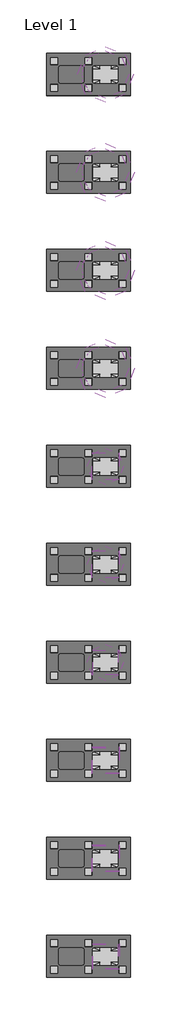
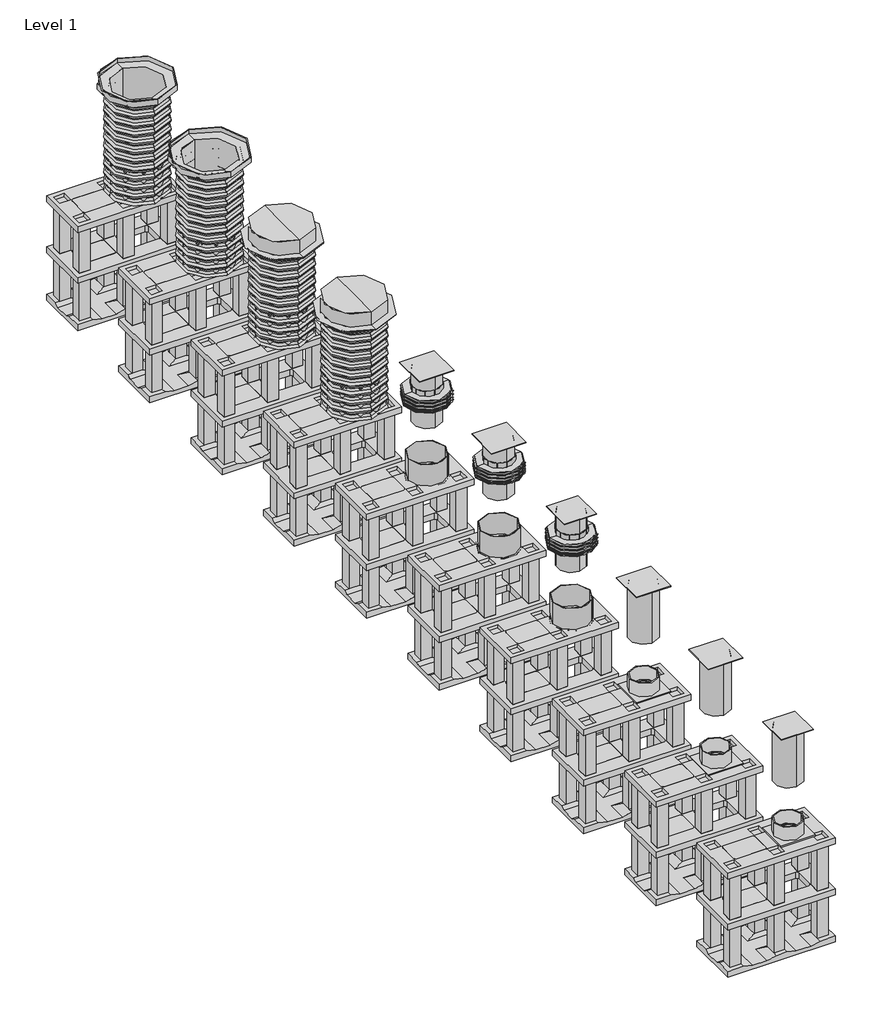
# One storey, incomplete: 37 unitary equipment elements, 20 pipe fittings.
"""IFC4 building model written with IfcOpenShell, lengths in millimetres."""

from ifc_helpers import new_model, si_unit, origin, place, context, project, spatial, transform, mapped, element, save
from components import pipe_fitting_ed6f3102, pipe_fitting_7e1303c6, pipe_fitting_19354b99, pipe_fitting_579b926a, pipe_fitting_80fb7be2, pipe_fitting_064eac1b, pipe_fitting_fba1ddc1, pipe_fitting_81697eeb, pipe_fitting_82165052, pipe_fitting_2391b2dd, sx315_telescopic_cover_with_d400_grating_073f188a, sx315_telescopic_cover_with_air_b125_2c5652aa, std_29941be0, unitary_equipment_425_46f02a0c, unitary_equipment_600_9c861f79, closed_bottom_plate_7d425a97, std_7f29cd48

model = new_model("IFC4")

# Units and contexts
model_context = context("Model", 3, world=origin())
ifc_project = project(units=[si_unit("LENGTHUNIT", "METRE", prefix="MILLI")], contexts=[model_context])

# Site, building, storey
site = spatial("IfcSite", under=ifc_project)
building = spatial("IfcBuilding", under=site)
storey = spatial("IfcBuildingStorey", under=building, Name="Level 1", Elevation=0.0)

# Pipe fittings
placement = place(None, origin())
pipe_fitting_shape = pipe_fitting_ed6f3102(model_context)
element("IfcPipeFitting", 1, ObjectType="Z_PIF_UN_Q-Bic_Plus_Telescopic_Adapter_Wavin_(nested) : Tegra600 Telescop.Adapter A/B", at=placement, inside=storey, context=model_context, shape_type="MappedRepresentation", body=[
    mapped(pipe_fitting_shape, transform((13331.051096, 7060.7779398, 2500.0), x_axis=(0.0, -1.0, 0.0), y_axis=(1.0, 0.0, 0.0), z_axis=(0.0, 0.0, 1.0))),
])
pipe_fitting_2_shape = pipe_fitting_7e1303c6(model_context)
element("IfcPipeFitting", 2, ObjectType="Z_PIF_UN_Q-Bic_Plus_Telescopic_Adapter_Wavin_(nested) : Tegra600 Telescop.Adapter D", at=placement, inside=storey, context=model_context, shape_type="MappedRepresentation", body=[
    mapped(pipe_fitting_2_shape, transform((13331.051096, 8460.7779398, 2500.0), x_axis=(0.0, -1.0, 0.0), y_axis=(1.0, 0.0, 0.0), z_axis=(0.0, 0.0, 1.0))),
])
pipe_fitting_3_shape = pipe_fitting_19354b99(model_context)
element("IfcPipeFitting", 3, ObjectType="Z_PIF_UN_Q-Bic_Plus_Manschette_Wavin_(nested) : 425/315 PP", at=placement, inside=storey, context=model_context, shape_type="MappedRepresentation", body=[
    mapped(pipe_fitting_3_shape, transform((13331.051096, 60.7779398, 2125.0), x_axis=(1.0, 0.0, 0.0), y_axis=(0.0, 0.0, 1.0), z_axis=(0.0, -1.0, 0.0))),
])
element("IfcPipeFitting", 4, ObjectType="Z_PIF_UN_Q-Bic_Plus_Manschette_Wavin_(nested) : 425/315 PP", at=placement, inside=storey, context=model_context, shape_type="MappedRepresentation", body=[
    mapped(pipe_fitting_3_shape, transform((13331.051096, 1460.7779398, 2125.0), x_axis=(1.0, 0.0, 0.0), y_axis=(0.0, 0.0, 1.0), z_axis=(0.0, -1.0, 0.0))),
])
element("IfcPipeFitting", 5, ObjectType="Z_PIF_UN_Q-Bic_Plus_Manschette_Wavin_(nested) : 425/315 PP", at=placement, inside=storey, context=model_context, shape_type="MappedRepresentation", body=[
    mapped(pipe_fitting_3_shape, transform((13331.051096, 2860.7779398, 2125.0), x_axis=(1.0, 0.0, 0.0), y_axis=(0.0, 0.0, 1.0), z_axis=(0.0, -1.0, 0.0))),
])
pipe_fitting_4_shape = pipe_fitting_579b926a(model_context)
element("IfcPipeFitting", 6, ObjectType="Z_PIF_UN_Q-Bic_Plus_Cover_Iron_Wavin_(nested) : Q-Bic Plus Cover - iron", at=placement, inside=storey, context=model_context, shape_type="MappedRepresentation", body=[
    mapped(pipe_fitting_4_shape, transform((13331.051096, 5660.7779398, 2500.0), x_axis=(0.0, -1.0, 0.0), y_axis=(1.0, 0.0, 0.0), z_axis=(0.0, 0.0, 1.0))),
])
pipe_fitting_5_shape = pipe_fitting_80fb7be2(model_context)
pipe_fitting_6_shape = pipe_fitting_064eac1b(model_context)
pipe_fitting_7_shape = pipe_fitting_fba1ddc1(model_context)
element("IfcPipeFitting", 7, ObjectType="Z_PIF_UN_Q-Bic_Plus_Shaft_Pipe_Wavin_(nested) : PP, RAL8012, ø600mm", at=placement, inside=storey, context=model_context, shape_type="MappedRepresentation", body=[
    mapped(pipe_fitting_5_shape, transform((13331.051096, 8460.7779398, 1230.0), x_axis=(0.0, 0.0, 1.0), y_axis=(0.0, 1.0, 0.0), z_axis=(-1.0, 0.0, 0.0))),
    mapped(pipe_fitting_6_shape, transform((13331.051096, 8460.7779398, 1230.0), x_axis=(0.0, 0.0, 1.0), y_axis=(0.0, 1.0, 0.0), z_axis=(-1.0, 0.0, 0.0))),
    mapped(pipe_fitting_7_shape, transform((13331.051096, 8460.7779398, 1230.0), x_axis=(0.0, 0.0, 1.0), y_axis=(0.0, 1.0, 0.0), z_axis=(-1.0, 0.0, 0.0))),
])
pipe_fitting_8_shape = pipe_fitting_81697eeb(model_context)
pipe_fitting_9_shape = pipe_fitting_82165052(model_context)
element("IfcPipeFitting", 8, ObjectType="Z_PIF_UN_Q-Bic_Plus_Shaft_Pipe_Wavin_(nested) : PP, RAL8012, ø600mm", at=placement, inside=storey, context=model_context, shape_type="MappedRepresentation", body=[
    mapped(pipe_fitting_8_shape, transform((13331.051096, 4260.7779398, 1230.0), x_axis=(0.0, 0.0, 1.0), y_axis=(0.0, 1.0, 0.0), z_axis=(-1.0, 0.0, 0.0))),
    mapped(pipe_fitting_9_shape, transform((13331.051096, 4260.7779398, 1230.0), x_axis=(0.0, 0.0, 1.0), y_axis=(0.0, 1.0, 0.0), z_axis=(-1.0, 0.0, 0.0))),
])
element("IfcPipeFitting", 9, ObjectType="Z_PIF_UN_Q-Bic_Plus_Shaft_Pipe_Wavin_(nested) : PP, RAL8012, ø600mm", at=placement, inside=storey, context=model_context, shape_type="MappedRepresentation", body=[
    mapped(pipe_fitting_8_shape, transform((13331.051096, 5660.7779398, 1230.0), x_axis=(0.0, 0.0, 1.0), y_axis=(0.0, 1.0, 0.0), z_axis=(-1.0, 0.0, 0.0))),
    mapped(pipe_fitting_9_shape, transform((13331.051096, 5660.7779398, 1230.0), x_axis=(0.0, 0.0, 1.0), y_axis=(0.0, 1.0, 0.0), z_axis=(-1.0, 0.0, 0.0))),
])
pipe_fitting_10_shape = pipe_fitting_2391b2dd(model_context)
element("IfcPipeFitting", 10, ObjectType="Z_PIF_UN_Q-Bic_Plus_Shaft_Pipe_Wavin_(nested) : PP, RAL8012, ø600mm", at=placement, inside=storey, context=model_context, shape_type="MappedRepresentation", body=[
    mapped(pipe_fitting_5_shape, transform((13331.051096, 7060.7779398, 1230.0), x_axis=(0.0, 0.0, 1.0), y_axis=(0.0, 1.0, 0.0), z_axis=(-1.0, 0.0, 0.0))),
    mapped(pipe_fitting_6_shape, transform((13331.051096, 7060.7779398, 1230.0), x_axis=(0.0, 0.0, 1.0), y_axis=(0.0, 1.0, 0.0), z_axis=(-1.0, 0.0, 0.0))),
    mapped(pipe_fitting_10_shape, transform((13331.051096, 7060.7779398, 1230.0), x_axis=(0.0, 0.0, 1.0), y_axis=(0.0, 1.0, 0.0), z_axis=(-1.0, 0.0, 0.0))),
])
element("IfcPipeFitting", 11, ObjectType="Z_PIF_UN_Q-Bic_Plus_Cover_Iron_Wavin_(nested) : Q-Bic Plus Cover - iron", at=placement, inside=storey, context=model_context, shape_type="MappedRepresentation", body=[
    mapped(pipe_fitting_4_shape, transform((13331.051096, 4260.7779398, 2500.0), x_axis=(0.0, -1.0, 0.0), y_axis=(1.0, 0.0, 0.0), z_axis=(0.0, 0.0, 1.0))),
])
sx315_telescopic_cover_with_d400_grating_shape = sx315_telescopic_cover_with_d400_grating_073f188a(model_context)
element("IfcPipeFitting", 12, ObjectType="Z_PIF_UN_Q-Bic_Plus_Telescopic_Square_Cover_Wavin_(nested) : SX315 Telescopic cover with D400 Grating", at=placement, inside=storey, context=model_context, shape_type="MappedRepresentation", body=[
    mapped(sx315_telescopic_cover_with_d400_grating_shape, transform((13331.051096, -1339.2220602, 2500.0), x_axis=(0.0, -1.0, 0.0), y_axis=(1.0, 0.0, 0.0), z_axis=(0.0, 0.0, 1.0))),
])
element("IfcPipeFitting", 13, ObjectType="Z_PIF_UN_Q-Bic_Plus_Telescopic_Square_Cover_Wavin_(nested) : SX315 Telescopic cover with D400 Grating", at=placement, inside=storey, context=model_context, shape_type="MappedRepresentation", body=[
    mapped(sx315_telescopic_cover_with_d400_grating_shape, transform((13331.051096, 2860.7779398, 2500.0), x_axis=(0.0, -1.0, 0.0), y_axis=(1.0, 0.0, 0.0), z_axis=(0.0, 0.0, 1.0))),
])
sx315_telescopic_cover_with_air_b125_shape = sx315_telescopic_cover_with_air_b125_2c5652aa(model_context)
element("IfcPipeFitting", 14, ObjectType="Z_PIF_UN_Q-Bic_Plus_Telescopic_Square_Cover_Wavin_(nested) : SX315 Telescopic cover with air B125", at=placement, inside=storey, context=model_context, shape_type="MappedRepresentation", body=[
    mapped(sx315_telescopic_cover_with_air_b125_shape, transform((13331.051096, -4139.2220602, 2500.0), x_axis=(0.0, -1.0, 0.0), y_axis=(1.0, 0.0, 0.0), z_axis=(0.0, 0.0, 1.0))),
])
element("IfcPipeFitting", 15, ObjectType="Z_PIF_UN_Q-Bic_Plus_Telescopic_Square_Cover_Wavin_(nested) : SX315 Telescopic cover with air B125", at=placement, inside=storey, context=model_context, shape_type="MappedRepresentation", body=[
    mapped(sx315_telescopic_cover_with_air_b125_shape, transform((13331.051096, 60.7779398, 2500.0), x_axis=(0.0, -1.0, 0.0), y_axis=(1.0, 0.0, 0.0), z_axis=(0.0, 0.0, 1.0))),
])
element("IfcPipeFitting", 16, ObjectType="Z_PIF_UN_Q-Bic_Plus_Telescopic_Square_Cover_Wavin_(nested) : SX315 Telescopic cover with air D400", at=placement, inside=storey, context=model_context, shape_type="MappedRepresentation", body=[
    mapped(sx315_telescopic_cover_with_d400_grating_shape, transform((13331.051096, -2739.2220602, 2500.0), x_axis=(0.0, -1.0, 0.0), y_axis=(1.0, 0.0, 0.0), z_axis=(0.0, 0.0, 1.0))),
])
element("IfcPipeFitting", 17, ObjectType="Z_PIF_UN_Q-Bic_Plus_Telescopic_Square_Cover_Wavin_(nested) : SX315 Telescopic cover with air D400", at=placement, inside=storey, context=model_context, shape_type="MappedRepresentation", body=[
    mapped(sx315_telescopic_cover_with_d400_grating_shape, transform((13331.051096, 1460.7779398, 2500.0), x_axis=(0.0, -1.0, 0.0), y_axis=(1.0, 0.0, 0.0), z_axis=(0.0, 0.0, 1.0))),
])
std_shape = std_29941be0(model_context)
element("IfcPipeFitting", 18, ObjectType="Z_ME_UN_Q-Bic_Plus_Spigot_Plate_315_Wavin_(nested) : std", at=placement, inside=storey, context=model_context, shape_type="MappedRepresentation", body=[
    mapped(std_shape, transform((13331.051096, -3959.2220602, 1230.0), x_axis=(1.0, 0.0, 0.0), y_axis=(0.0, 0.0, 1.0), z_axis=(0.0, -1.0, 0.0))),
])
element("IfcPipeFitting", 19, ObjectType="Z_ME_UN_Q-Bic_Plus_Spigot_Plate_315_Wavin_(nested) : std", at=placement, inside=storey, context=model_context, shape_type="MappedRepresentation", body=[
    mapped(std_shape, transform((13331.051096, -2559.2220602, 1230.0), x_axis=(1.0, 0.0, 0.0), y_axis=(0.0, 0.0, 1.0), z_axis=(0.0, -1.0, 0.0))),
])
element("IfcPipeFitting", 20, ObjectType="Z_ME_UN_Q-Bic_Plus_Spigot_Plate_315_Wavin_(nested) : std", at=placement, inside=storey, context=model_context, shape_type="MappedRepresentation", body=[
    mapped(std_shape, transform((13331.051096, -1159.2220602, 1230.0), x_axis=(1.0, 0.0, 0.0), y_axis=(0.0, 0.0, 1.0), z_axis=(0.0, -1.0, 0.0))),
])

# Unitary equipment
unitary_equipment_425_shape = unitary_equipment_425_46f02a0c(model_context)
element("IfcUnitaryEquipment", 21, ObjectType="Z_ME_UN_Q-Bic_Plus_Kit_Shaft_Connector_Wavin_(nested) : 425", at=placement, inside=storey, context=model_context, shape_type="MappedRepresentation", body=[
    mapped(unitary_equipment_425_shape, transform((13331.051096, 60.7779398, 1220.0), x_axis=(1.0, 0.0, 0.0), y_axis=(0.0, 1.0, 0.0), z_axis=(0.0, 0.0, 1.0))),
])
element("IfcUnitaryEquipment", 22, ObjectType="Z_ME_UN_Q-Bic_Plus_Kit_Shaft_Connector_Wavin_(nested) : 425", at=placement, inside=storey, context=model_context, shape_type="MappedRepresentation", body=[
    mapped(unitary_equipment_425_shape, transform((13331.051096, 1460.7779398, 1220.0), x_axis=(1.0, 0.0, 0.0), y_axis=(0.0, 1.0, 0.0), z_axis=(0.0, 0.0, 1.0))),
])
element("IfcUnitaryEquipment", 23, ObjectType="Z_ME_UN_Q-Bic_Plus_Kit_Shaft_Connector_Wavin_(nested) : 425", at=placement, inside=storey, context=model_context, shape_type="MappedRepresentation", body=[
    mapped(unitary_equipment_425_shape, transform((13331.051096, 2860.7779398, 1220.0), x_axis=(1.0, 0.0, 0.0), y_axis=(0.0, 1.0, 0.0), z_axis=(0.0, 0.0, 1.0))),
])
unitary_equipment_600_shape = unitary_equipment_600_9c861f79(model_context)
element("IfcUnitaryEquipment", 24, ObjectType="Z_ME_UN_Q-Bic_Plus_Kit_Shaft_Connector_Wavin_(nested) : 600", at=placement, inside=storey, context=model_context, shape_type="MappedRepresentation", body=[
    mapped(unitary_equipment_600_shape, transform((13331.051096, 4260.7779398, 1230.0), x_axis=(1.0, 0.0, 0.0), y_axis=(0.0, 1.0, 0.0), z_axis=(0.0, 0.0, 1.0))),
])
element("IfcUnitaryEquipment", 25, ObjectType="Z_ME_UN_Q-Bic_Plus_Kit_Shaft_Connector_Wavin_(nested) : 600", at=placement, inside=storey, context=model_context, shape_type="MappedRepresentation", body=[
    mapped(unitary_equipment_600_shape, transform((13331.051096, 5660.7779398, 1230.0), x_axis=(1.0, 0.0, 0.0), y_axis=(0.0, 1.0, 0.0), z_axis=(0.0, 0.0, 1.0))),
])
element("IfcUnitaryEquipment", 26, ObjectType="Z_ME_UN_Q-Bic_Plus_Kit_Shaft_Connector_Wavin_(nested) : 600", at=placement, inside=storey, context=model_context, shape_type="MappedRepresentation", body=[
    mapped(unitary_equipment_600_shape, transform((13331.051096, 7060.7779398, 1230.0), x_axis=(1.0, 0.0, 0.0), y_axis=(0.0, 1.0, 0.0), z_axis=(0.0, 0.0, 1.0))),
])
element("IfcUnitaryEquipment", 27, ObjectType="Z_ME_UN_Q-Bic_Plus_Kit_Shaft_Connector_Wavin_(nested) : 600", at=placement, inside=storey, context=model_context, shape_type="MappedRepresentation", body=[
    mapped(unitary_equipment_600_shape, transform((13331.051096, 8460.7779398, 1230.0), x_axis=(1.0, 0.0, 0.0), y_axis=(0.0, 1.0, 0.0), z_axis=(0.0, 0.0, 1.0))),
])
closed_bottom_plate_shape = closed_bottom_plate_7d425a97(model_context)
element("IfcUnitaryEquipment", 28, ObjectType="Z_ME_UN_Q-Bic_Plus_Bottom_Plate_Wavin_(nested) : Closed bottom plate", at=placement, inside=storey, context=model_context, shape_type="MappedRepresentation", body=[
    mapped(closed_bottom_plate_shape, transform((12486.051096, -4439.2220602, 70.0), x_axis=(1.0, 0.0, 0.0), y_axis=(0.0, 1.0, 0.0), z_axis=(0.0, 0.0, 1.0))),
])
element("IfcUnitaryEquipment", 29, ObjectType="Z_ME_UN_Q-Bic_Plus_Bottom_Plate_Wavin_(nested) : Closed bottom plate", at=placement, inside=storey, context=model_context, shape_type="MappedRepresentation", body=[
    mapped(closed_bottom_plate_shape, transform((12486.051096, 8160.7779398, 70.0), x_axis=(1.0, 0.0, 0.0), y_axis=(0.0, 1.0, 0.0), z_axis=(0.0, 0.0, 1.0))),
])
element("IfcUnitaryEquipment", 30, ObjectType="Z_ME_UN_Q-Bic_Plus_Bottom_Plate_Wavin_(nested) : Closed bottom plate", at=placement, inside=storey, context=model_context, shape_type="MappedRepresentation", body=[
    mapped(closed_bottom_plate_shape, transform((12486.051096, -3039.2220602, 70.0), x_axis=(1.0, 0.0, 0.0), y_axis=(0.0, 1.0, 0.0), z_axis=(0.0, 0.0, 1.0))),
])
element("IfcUnitaryEquipment", 31, ObjectType="Z_ME_UN_Q-Bic_Plus_Bottom_Plate_Wavin_(nested) : Closed bottom plate", at=placement, inside=storey, context=model_context, shape_type="MappedRepresentation", body=[
    mapped(closed_bottom_plate_shape, transform((12486.051096, -1639.2220602, 70.0), x_axis=(1.0, 0.0, 0.0), y_axis=(0.0, 1.0, 0.0), z_axis=(0.0, 0.0, 1.0))),
])
element("IfcUnitaryEquipment", 32, ObjectType="Z_ME_UN_Q-Bic_Plus_Bottom_Plate_Wavin_(nested) : Closed bottom plate", at=placement, inside=storey, context=model_context, shape_type="MappedRepresentation", body=[
    mapped(closed_bottom_plate_shape, transform((12486.051096, -239.2220602, 70.0), x_axis=(1.0, 0.0, 0.0), y_axis=(0.0, 1.0, 0.0), z_axis=(0.0, 0.0, 1.0))),
])
element("IfcUnitaryEquipment", 33, ObjectType="Z_ME_UN_Q-Bic_Plus_Bottom_Plate_Wavin_(nested) : Closed bottom plate", at=placement, inside=storey, context=model_context, shape_type="MappedRepresentation", body=[
    mapped(closed_bottom_plate_shape, transform((12486.051096, 1160.7779398, 70.0), x_axis=(1.0, 0.0, 0.0), y_axis=(0.0, 1.0, 0.0), z_axis=(0.0, 0.0, 1.0))),
])
element("IfcUnitaryEquipment", 34, ObjectType="Z_ME_UN_Q-Bic_Plus_Bottom_Plate_Wavin_(nested) : Closed bottom plate", at=placement, inside=storey, context=model_context, shape_type="MappedRepresentation", body=[
    mapped(closed_bottom_plate_shape, transform((12486.051096, 2560.7779398, 70.0), x_axis=(1.0, 0.0, 0.0), y_axis=(0.0, 1.0, 0.0), z_axis=(0.0, 0.0, 1.0))),
])
element("IfcUnitaryEquipment", 35, ObjectType="Z_ME_UN_Q-Bic_Plus_Bottom_Plate_Wavin_(nested) : Closed bottom plate", at=placement, inside=storey, context=model_context, shape_type="MappedRepresentation", body=[
    mapped(closed_bottom_plate_shape, transform((12486.051096, 3960.7779398, 70.0), x_axis=(1.0, 0.0, 0.0), y_axis=(0.0, 1.0, 0.0), z_axis=(0.0, 0.0, 1.0))),
])
element("IfcUnitaryEquipment", 36, ObjectType="Z_ME_UN_Q-Bic_Plus_Bottom_Plate_Wavin_(nested) : Closed bottom plate", at=placement, inside=storey, context=model_context, shape_type="MappedRepresentation", body=[
    mapped(closed_bottom_plate_shape, transform((12486.051096, 5360.7779398, 70.0), x_axis=(1.0, 0.0, 0.0), y_axis=(0.0, 1.0, 0.0), z_axis=(0.0, 0.0, 1.0))),
])
element("IfcUnitaryEquipment", 37, ObjectType="Z_ME_UN_Q-Bic_Plus_Bottom_Plate_Wavin_(nested) : Closed bottom plate", at=placement, inside=storey, context=model_context, shape_type="MappedRepresentation", body=[
    mapped(closed_bottom_plate_shape, transform((12486.051096, 6760.7779398, 70.0), x_axis=(1.0, 0.0, 0.0), y_axis=(0.0, 1.0, 0.0), z_axis=(0.0, 0.0, 1.0))),
])
std_2_shape = std_7f29cd48(model_context)
element("IfcUnitaryEquipment", 38, ObjectType="Z_ME_UN_Q-Bic Plus_Infiltration_Unit_Wavin_(nested) : std", at=placement, inside=storey, context=model_context, shape_type="MappedRepresentation", body=[
    mapped(std_2_shape, transform((12486.051096, -4439.2220602, 630.0), x_axis=(1.0, 0.0, 0.0), y_axis=(0.0, 1.0, 0.0), z_axis=(0.0, 0.0, 1.0))),
])
element("IfcUnitaryEquipment", 39, ObjectType="Z_ME_UN_Q-Bic Plus_Infiltration_Unit_Wavin_(nested) : std", at=placement, inside=storey, context=model_context, shape_type="MappedRepresentation", body=[
    mapped(std_2_shape, transform((12486.051096, -4439.2220602, 30.0), x_axis=(1.0, 0.0, 0.0), y_axis=(0.0, 1.0, 0.0), z_axis=(0.0, 0.0, 1.0))),
])
element("IfcUnitaryEquipment", 40, ObjectType="Z_ME_UN_Q-Bic Plus_Infiltration_Unit_Wavin_(nested) : std", at=placement, inside=storey, context=model_context, shape_type="MappedRepresentation", body=[
    mapped(std_2_shape, transform((12486.051096, 8160.7779398, 630.0), x_axis=(1.0, 0.0, 0.0), y_axis=(0.0, 1.0, 0.0), z_axis=(0.0, 0.0, 1.0))),
])
element("IfcUnitaryEquipment", 41, ObjectType="Z_ME_UN_Q-Bic Plus_Infiltration_Unit_Wavin_(nested) : std", at=placement, inside=storey, context=model_context, shape_type="MappedRepresentation", body=[
    mapped(std_2_shape, transform((12486.051096, 8160.7779398, 30.0), x_axis=(1.0, 0.0, 0.0), y_axis=(0.0, 1.0, 0.0), z_axis=(0.0, 0.0, 1.0))),
])
element("IfcUnitaryEquipment", 42, ObjectType="Z_ME_UN_Q-Bic Plus_Infiltration_Unit_Wavin_(nested) : std", at=placement, inside=storey, context=model_context, shape_type="MappedRepresentation", body=[
    mapped(std_2_shape, transform((12486.051096, -3039.2220602, 630.0), x_axis=(1.0, 0.0, 0.0), y_axis=(0.0, 1.0, 0.0), z_axis=(0.0, 0.0, 1.0))),
])
element("IfcUnitaryEquipment", 43, ObjectType="Z_ME_UN_Q-Bic Plus_Infiltration_Unit_Wavin_(nested) : std", at=placement, inside=storey, context=model_context, shape_type="MappedRepresentation", body=[
    mapped(std_2_shape, transform((12486.051096, -3039.2220602, 30.0), x_axis=(1.0, 0.0, 0.0), y_axis=(0.0, 1.0, 0.0), z_axis=(0.0, 0.0, 1.0))),
])
element("IfcUnitaryEquipment", 44, ObjectType="Z_ME_UN_Q-Bic Plus_Infiltration_Unit_Wavin_(nested) : std", at=placement, inside=storey, context=model_context, shape_type="MappedRepresentation", body=[
    mapped(std_2_shape, transform((12486.051096, -1639.2220602, 630.0), x_axis=(1.0, 0.0, 0.0), y_axis=(0.0, 1.0, 0.0), z_axis=(0.0, 0.0, 1.0))),
])
element("IfcUnitaryEquipment", 45, ObjectType="Z_ME_UN_Q-Bic Plus_Infiltration_Unit_Wavin_(nested) : std", at=placement, inside=storey, context=model_context, shape_type="MappedRepresentation", body=[
    mapped(std_2_shape, transform((12486.051096, -1639.2220602, 30.0), x_axis=(1.0, 0.0, 0.0), y_axis=(0.0, 1.0, 0.0), z_axis=(0.0, 0.0, 1.0))),
])
element("IfcUnitaryEquipment", 46, ObjectType="Z_ME_UN_Q-Bic Plus_Infiltration_Unit_Wavin_(nested) : std", at=placement, inside=storey, context=model_context, shape_type="MappedRepresentation", body=[
    mapped(std_2_shape, transform((12486.051096, -239.2220602, 630.0), x_axis=(1.0, 0.0, 0.0), y_axis=(0.0, 1.0, 0.0), z_axis=(0.0, 0.0, 1.0))),
])
element("IfcUnitaryEquipment", 47, ObjectType="Z_ME_UN_Q-Bic Plus_Infiltration_Unit_Wavin_(nested) : std", at=placement, inside=storey, context=model_context, shape_type="MappedRepresentation", body=[
    mapped(std_2_shape, transform((12486.051096, -239.2220602, 30.0), x_axis=(1.0, 0.0, 0.0), y_axis=(0.0, 1.0, 0.0), z_axis=(0.0, 0.0, 1.0))),
])
element("IfcUnitaryEquipment", 48, ObjectType="Z_ME_UN_Q-Bic Plus_Infiltration_Unit_Wavin_(nested) : std", at=placement, inside=storey, context=model_context, shape_type="MappedRepresentation", body=[
    mapped(std_2_shape, transform((12486.051096, 1160.7779398, 630.0), x_axis=(1.0, 0.0, 0.0), y_axis=(0.0, 1.0, 0.0), z_axis=(0.0, 0.0, 1.0))),
])
element("IfcUnitaryEquipment", 49, ObjectType="Z_ME_UN_Q-Bic Plus_Infiltration_Unit_Wavin_(nested) : std", at=placement, inside=storey, context=model_context, shape_type="MappedRepresentation", body=[
    mapped(std_2_shape, transform((12486.051096, 1160.7779398, 30.0), x_axis=(1.0, 0.0, 0.0), y_axis=(0.0, 1.0, 0.0), z_axis=(0.0, 0.0, 1.0))),
])
element("IfcUnitaryEquipment", 50, ObjectType="Z_ME_UN_Q-Bic Plus_Infiltration_Unit_Wavin_(nested) : std", at=placement, inside=storey, context=model_context, shape_type="MappedRepresentation", body=[
    mapped(std_2_shape, transform((12486.051096, 2560.7779398, 630.0), x_axis=(1.0, 0.0, 0.0), y_axis=(0.0, 1.0, 0.0), z_axis=(0.0, 0.0, 1.0))),
])
element("IfcUnitaryEquipment", 51, ObjectType="Z_ME_UN_Q-Bic Plus_Infiltration_Unit_Wavin_(nested) : std", at=placement, inside=storey, context=model_context, shape_type="MappedRepresentation", body=[
    mapped(std_2_shape, transform((12486.051096, 2560.7779398, 30.0), x_axis=(1.0, 0.0, 0.0), y_axis=(0.0, 1.0, 0.0), z_axis=(0.0, 0.0, 1.0))),
])
element("IfcUnitaryEquipment", 52, ObjectType="Z_ME_UN_Q-Bic Plus_Infiltration_Unit_Wavin_(nested) : std", at=placement, inside=storey, context=model_context, shape_type="MappedRepresentation", body=[
    mapped(std_2_shape, transform((12486.051096, 3960.7779398, 630.0), x_axis=(1.0, 0.0, 0.0), y_axis=(0.0, 1.0, 0.0), z_axis=(0.0, 0.0, 1.0))),
])
element("IfcUnitaryEquipment", 53, ObjectType="Z_ME_UN_Q-Bic Plus_Infiltration_Unit_Wavin_(nested) : std", at=placement, inside=storey, context=model_context, shape_type="MappedRepresentation", body=[
    mapped(std_2_shape, transform((12486.051096, 3960.7779398, 30.0), x_axis=(1.0, 0.0, 0.0), y_axis=(0.0, 1.0, 0.0), z_axis=(0.0, 0.0, 1.0))),
])
element("IfcUnitaryEquipment", 54, ObjectType="Z_ME_UN_Q-Bic Plus_Infiltration_Unit_Wavin_(nested) : std", at=placement, inside=storey, context=model_context, shape_type="MappedRepresentation", body=[
    mapped(std_2_shape, transform((12486.051096, 5360.7779398, 630.0), x_axis=(1.0, 0.0, 0.0), y_axis=(0.0, 1.0, 0.0), z_axis=(0.0, 0.0, 1.0))),
])
element("IfcUnitaryEquipment", 55, ObjectType="Z_ME_UN_Q-Bic Plus_Infiltration_Unit_Wavin_(nested) : std", at=placement, inside=storey, context=model_context, shape_type="MappedRepresentation", body=[
    mapped(std_2_shape, transform((12486.051096, 5360.7779398, 30.0), x_axis=(1.0, 0.0, 0.0), y_axis=(0.0, 1.0, 0.0), z_axis=(0.0, 0.0, 1.0))),
])
element("IfcUnitaryEquipment", 56, ObjectType="Z_ME_UN_Q-Bic Plus_Infiltration_Unit_Wavin_(nested) : std", at=placement, inside=storey, context=model_context, shape_type="MappedRepresentation", body=[
    mapped(std_2_shape, transform((12486.051096, 6760.7779398, 630.0), x_axis=(1.0, 0.0, 0.0), y_axis=(0.0, 1.0, 0.0), z_axis=(0.0, 0.0, 1.0))),
])
element("IfcUnitaryEquipment", 57, ObjectType="Z_ME_UN_Q-Bic Plus_Infiltration_Unit_Wavin_(nested) : std", at=placement, inside=storey, context=model_context, shape_type="MappedRepresentation", body=[
    mapped(std_2_shape, transform((12486.051096, 6760.7779398, 30.0), x_axis=(1.0, 0.0, 0.0), y_axis=(0.0, 1.0, 0.0), z_axis=(0.0, 0.0, 1.0))),
])

save(model, "model.ifc")
